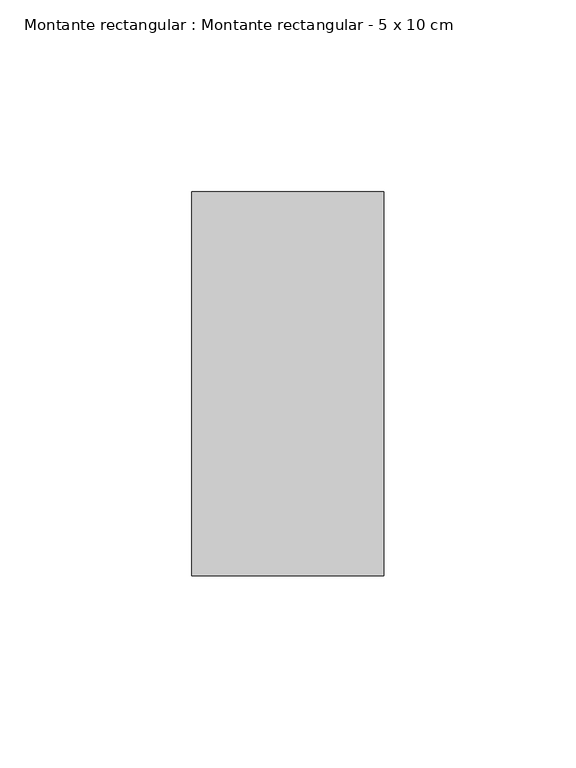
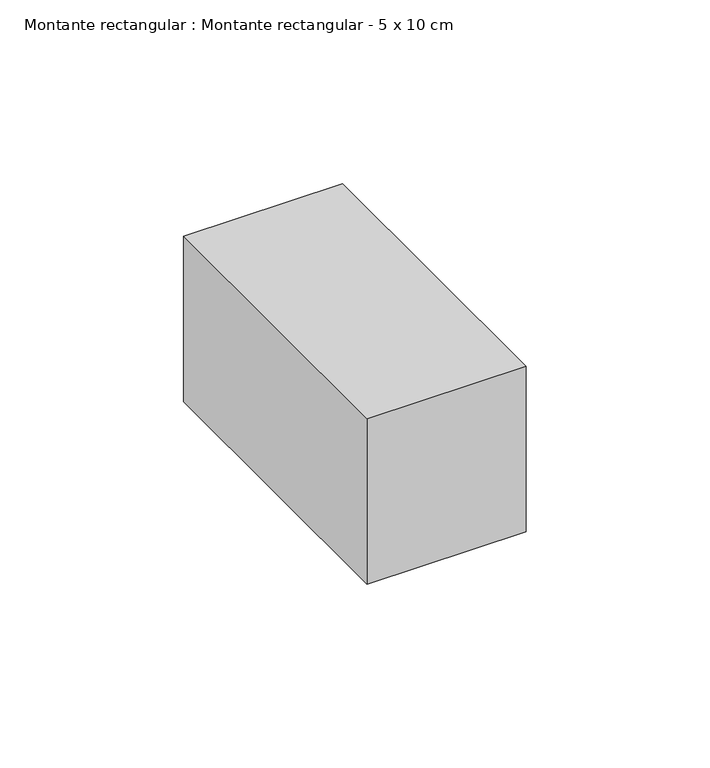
"""IFC4 building model written with IfcOpenShell, lengths in millimetres: member geometry, Montante rectangular : Montante rectangular - 5 x 10 cm."""

from ifc_helpers import new_model, si_unit, frame, origin, place, context, project, spatial, polyline, outline, extrude, source, transform, mapped, element, save


def montante_rectangular_montante_rectangular_5_x_10_cm_63e52f92(model_context):
    return source(origin(), model_context, "Body", "SweptSolid", [
        extrude(outline(polyline([(-50.0, 50.0), (0.0, 50.0), (0.0, -50.0), (-50.0, -50.0), (-50.0, 50.0)])), frame((0.0, 0.0, -55.0), z_axis=(0.0, 0.0, 1.0), x_axis=(1.0, 0.0, 0.0)), (0.0, 0.0, 1.0), 55.0),
    ])


if __name__ == "__main__":
    model = new_model("IFC4")
    model_context = context("Model", 3, world=origin())
    ifc_project = project(units=[si_unit("LENGTHUNIT", "METRE", prefix="MILLI")], contexts=[model_context])
    site = spatial("IfcSite", under=ifc_project)
    building = spatial("IfcBuilding", under=site)
    placement = place(None, origin())
    montante_rectangular_montante_rectangular_5_x_10_cm_shape = montante_rectangular_montante_rectangular_5_x_10_cm_63e52f92(model_context)
    element("IfcMember", 1, ObjectType="Montante rectangular : Montante rectangular - 5 x 10 cm", at=placement, inside=building, context=model_context, shape_type="MappedRepresentation", body=[
        mapped(montante_rectangular_montante_rectangular_5_x_10_cm_shape, transform((0.0, 0.0, 0.0), x_axis=(1.0, 0.0, 0.0), y_axis=(0.0, 1.0, 0.0), z_axis=(0.0, 0.0, 1.0))),
    ])
    save(model, "model.ifc")
